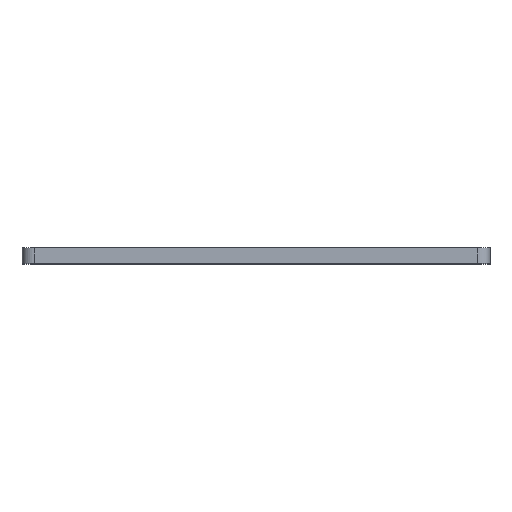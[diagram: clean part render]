
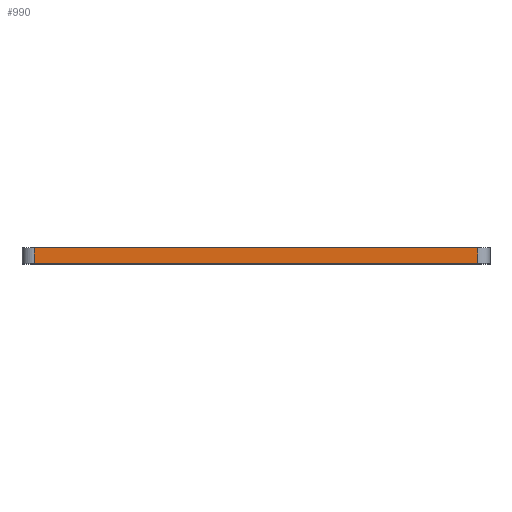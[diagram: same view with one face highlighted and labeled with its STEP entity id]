
A CAD part, top view. The second image highlights one B-rep face of the part: STEP entity #990.
In plain terms, the highlighted planar face has unit normal (0, 0, 1).
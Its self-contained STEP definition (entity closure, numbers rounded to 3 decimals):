
#14 = LINE ( 'NONE', #195, #285 ) ;
#27 = CARTESIAN_POINT ( 'NONE',  ( -36., 2.5, 55.5 ) ) ;
#37 = DIRECTION ( 'NONE',  ( 0., 1., 0. ) ) ;
#97 = DIRECTION ( 'NONE',  ( 0., -1., 0. ) ) ;
#133 = EDGE_CURVE ( 'NONE', #1032, #1075, #14, .T. ) ;
#156 = ORIENTED_EDGE ( 'NONE', *, *, #133, .T. ) ;
#195 = CARTESIAN_POINT ( 'NONE',  ( -36., 2.5, 55.5 ) ) ;
#238 = EDGE_CURVE ( 'NONE', #1075, #407, #462, .T. ) ;
#249 = VECTOR ( 'NONE', #322, 1000. ) ;
#269 = VECTOR ( 'NONE', #37, 1000. ) ;
#278 = VERTEX_POINT ( 'NONE', #971 ) ;
#285 = VECTOR ( 'NONE', #97, 1000. ) ;
#322 = DIRECTION ( 'NONE',  ( 1., 0., 0. ) ) ;
#406 = LINE ( 'NONE', #746, #249 ) ;
#407 = VERTEX_POINT ( 'NONE', #677 ) ;
#452 = PLANE ( 'NONE',  #885 ) ;
#462 = LINE ( 'NONE', #626, #826 ) ;
#472 = EDGE_LOOP ( 'NONE', ( #977, #867, #761, #156 ) ) ;
#520 = DIRECTION ( 'NONE',  ( 0., 0., -1. ) ) ;
#581 = EDGE_CURVE ( 'NONE', #1032, #278, #406, .T. ) ;
#626 = CARTESIAN_POINT ( 'NONE',  ( 38., 0., 55.5 ) ) ;
#677 = CARTESIAN_POINT ( 'NONE',  ( 36., 0., 55.5 ) ) ;
#697 = CARTESIAN_POINT ( 'NONE',  ( 38., 2.5, 55.5 ) ) ;
#703 = CARTESIAN_POINT ( 'NONE',  ( 36., 2.5, 55.5 ) ) ;
#746 = CARTESIAN_POINT ( 'NONE',  ( 38., 2.5, 55.5 ) ) ;
#761 = ORIENTED_EDGE ( 'NONE', *, *, #581, .F. ) ;
#807 = DIRECTION ( 'NONE',  ( 1., 0., 0. ) ) ;
#826 = VECTOR ( 'NONE', #807, 1000. ) ;
#860 = FACE_OUTER_BOUND ( 'NONE', #472, .T. ) ;
#867 = ORIENTED_EDGE ( 'NONE', *, *, #1086, .T. ) ;
#870 = DIRECTION ( 'NONE',  ( -1., 0., 0. ) ) ;
#879 = LINE ( 'NONE', #703, #269 ) ;
#885 = AXIS2_PLACEMENT_3D ( 'NONE', #697, #520, #870 ) ;
#965 = CARTESIAN_POINT ( 'NONE',  ( -36., 0., 55.5 ) ) ;
#971 = CARTESIAN_POINT ( 'NONE',  ( 36., 2.5, 55.5 ) ) ;
#977 = ORIENTED_EDGE ( 'NONE', *, *, #238, .T. ) ;
#990 = ADVANCED_FACE ( 'NONE', ( #860 ), #452, .F. ) ;
#1032 = VERTEX_POINT ( 'NONE', #27 ) ;
#1075 = VERTEX_POINT ( 'NONE', #965 ) ;
#1086 = EDGE_CURVE ( 'NONE', #407, #278, #879, .T. ) ;
